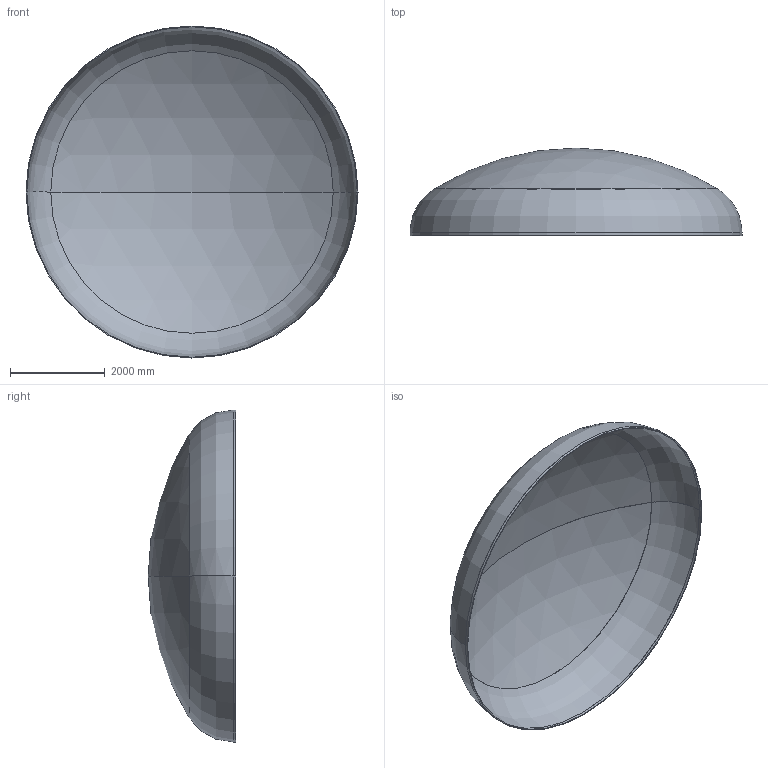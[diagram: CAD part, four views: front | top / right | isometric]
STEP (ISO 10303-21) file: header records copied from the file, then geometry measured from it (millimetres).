
FILE_DESCRIPTION (( 'STEP AP203' ), '1' );
FILE_NAME ('DIN 28013 Korbbogenform_-_Boden DIN 28013 - 7000 x 55 - I - s=16.step', '2016-07-04T10:45:27', ( '' ), ( '' ), 'SwSTEP 2.0', 'SolidWorks 2013', '' );
FILE_SCHEMA (( 'CONFIG_CONTROL_DESIGN' ));
Length unit declared in the file: millimetre
Products named in the file (1): DIN 28013 Korbbogenform_-_Boden DIN 28013 - 7000 x 55 - I - s=16
Bounding box: 7000 x 1843.31 x 7000 mm (x, y, z)
Volume: 869921226.7 mm3; surface area: 109091699 mm2
Topology: 1 solids, 1 shells, 13 faces, 24 edges, 14 vertices
Faces by surface type: torus 4, cylinder 4, sphere 4, plane 1
Entity records: 407 total; most frequent: DIRECTION 72, CARTESIAN_POINT 52, ORIENTED_EDGE 48, AXIS2_PLACEMENT_3D 34, EDGE_CURVE 24, CIRCLE 20, VERTEX_POINT 14, EDGE_LOOP 14
